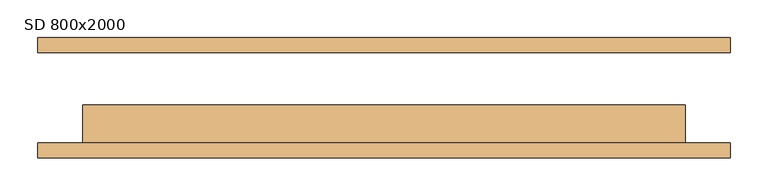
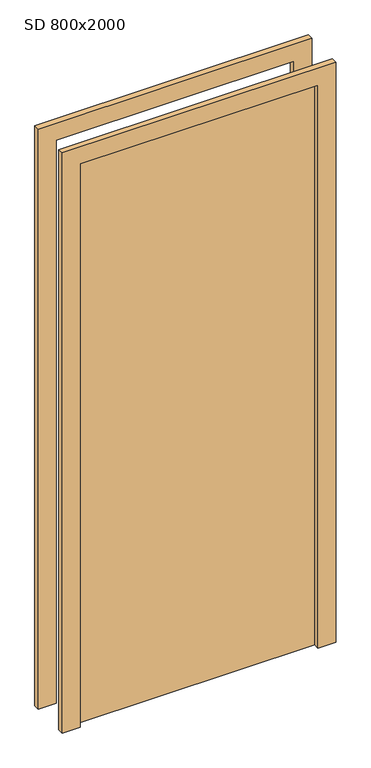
"""IFC4 building model written with IfcOpenShell, lengths in millimetres: door geometry, JednokridlePlne : SD 800x2000."""

from ifc_helpers import new_model, si_unit, frame, origin, origin_with_axes, place, context, project, spatial, polyline, outline, extrude, source, transform, mapped, element, save


def sd_800x2000_c4456082(model_context):
    return source(origin(), model_context, "Body", "SweptSolid", [
        extrude(outline(polyline([(2060.0, -460.0), (0.0, -460.0), (0.0, -400.0), (2000.0, -400.0), (2000.0, 400.0), (0.0, 400.0), (0.0, 460.0), (2060.0, 460.0), (2060.0, -460.0)])), frame((0.0, -80.0, 0.0), z_axis=(0.0, 1.0, 0.0), x_axis=(0.0, 0.0, 1.0)), (0.0, 0.0, 1.0), 20.0),
        extrude(outline(polyline([(2060.0, 460.0), (2060.0, -460.0), (0.0, -460.0), (0.0, -400.0), (2000.0, -400.0), (2000.0, 400.0), (0.0, 400.0), (0.0, 460.0), (2060.0, 460.0)])), frame((0.0, 60.0, 0.0), z_axis=(0.0, 1.0, 0.0), x_axis=(0.0, 0.0, 1.0)), (0.0, 0.0, 1.0), 20.0),
        extrude(outline(polyline([(400.0, -10.0), (400.0, -60.0), (-400.0, -60.0), (-400.0, -10.0), (400.0, -10.0)])), origin_with_axes(), (0.0, 0.0, 1.0), 2000.0),
    ])


if __name__ == "__main__":
    model = new_model("IFC4")
    model_context = context("Model", 3, world=origin())
    ifc_project = project(units=[si_unit("LENGTHUNIT", "METRE", prefix="MILLI")], contexts=[model_context])
    site = spatial("IfcSite", under=ifc_project)
    building = spatial("IfcBuilding", under=site)
    placement = place(None, origin())
    sd_800x2000_shape = sd_800x2000_c4456082(model_context)
    element("IfcDoor", 1, ObjectType="JednokridlePlne : SD 800x2000", at=placement, inside=building, context=model_context, shape_type="MappedRepresentation", body=[
        mapped(sd_800x2000_shape, transform((0.0, 0.0, 0.0), x_axis=(1.0, 0.0, 0.0), y_axis=(0.0, 1.0, 0.0), z_axis=(0.0, 0.0, 1.0))),
    ])
    save(model, "model.ifc")
